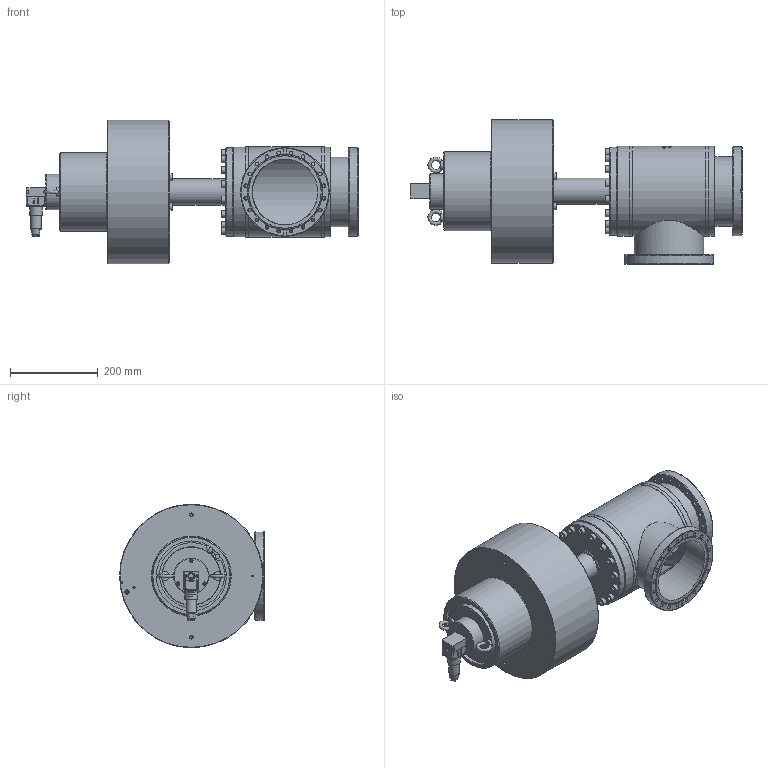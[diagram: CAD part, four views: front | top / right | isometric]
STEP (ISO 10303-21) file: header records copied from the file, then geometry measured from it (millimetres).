
FILE_DESCRIPTION(/* description */ (''),/* implementation_level */ '2;1');
FILE_NAME(/* name */ '1025126680_203.stp',/* time_stamp */ '2012-03-02T11:29:17+01:00',/* author */ (''),/* organization */ (''),/* preprocessor_version */ 'ST-DEVELOPER v11',/* originating_system */ 'SIEMENS PLM Software NX 7.5',/* authorisation */ '');
FILE_SCHEMA (('CONFIG_CONTROL_DESIGN'));
Length unit declared in the file: millimetre
Products named in the file (28): n-6203-160.1; n-6203-300.1; n-8504-002; n-6024-531; 69672-01; 72236-01; n-6203-015; n-6162-404; 72238-01; n-6016-503; 219138; N-6013-449.1; 219122_1; 219123_1; 219124_1; 219130; 219135; 219134; n-6033-403; 330425.4; 330431.1; 330429.1; 330423.3; 330433.1; 330427.2; 352149; n-5019-839; 376660
Assembly tree (69 placements, depth 2):
  376660
    n-5019-839  x31
    352149  x4
    330427.2
    330433.1  x2
    330423.3
    330429.1
    330431.1
    330425.4
    n-6033-403  x2
    219134
    219135
    219130
    219124_1
    219123_1
    219122_1
    N-6013-449.1  x3
    219138
    n-6016-503  x2
    72238-01
    n-6162-404  x2
    n-6203-015
    72236-01
    69672-01
    n-6024-531  x4
    n-8504-002
    n-6203-300.1
    n-6203-160.1
Bounding box: 758.7 x 331.05 x 328 mm (x, y, z)
Volume: 8630580.2 mm3; surface area: 1751010 mm2
Topology: 143 solids, 143 shells, 1744 faces, 3884 edges, 2547 vertices
Faces by surface type: plane 972, cylinder 515, cone 165, extrusion 44, bspline 24, torus 20, sphere 4
Full cylindrical faces by diameter (mm): 1.4 x2, 1.95 x4, 2.25 x4, 2.7 x4, 3 x6, 3.26 x2, 3.3 x5, 3.4 x4, 4 x12, 4.2 x2, 4.3 x1, 4.4 x5, 5 x3, 6 x9, 6.8 x4, 7.5 x3, 8 x6, 8.16 x16, 8.36 x35, 8.4 x75, 8.7 x1, 9.7 x1, 10 x90, 10.5 x4, 10.8 x20, 11.95 x4, 13.3 x1, 13.5 x1, 13.85 x1, 14.1 x2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
Entity records: 35076 total; most frequent: CARTESIAN_POINT 10279, DIRECTION 4107, ORIENTED_EDGE 3654, EDGE_CURVE 1827, AXIS2_PLACEMENT_3D 1671, EDGE_LOOP 1585, VERTEX_POINT 1425, FACE_BOUND 1151
